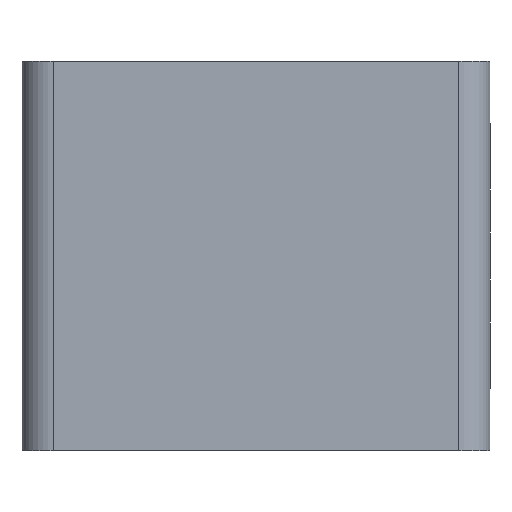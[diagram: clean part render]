
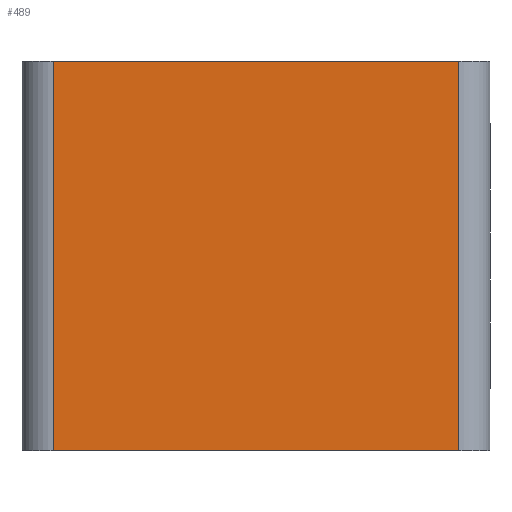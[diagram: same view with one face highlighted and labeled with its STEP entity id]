
A CAD part, left-side view. The second image highlights one B-rep face of the part: STEP entity #489.
In plain terms, the highlighted planar face has unit normal (-1, 0, 0).
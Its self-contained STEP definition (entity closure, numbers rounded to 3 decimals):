
#12 = AXIS2_PLACEMENT_3D ( 'NONE', #997, #910, #274 ) ;
#33 = FACE_OUTER_BOUND ( 'NONE', #331, .T. ) ;
#118 = VECTOR ( 'NONE', #706, 1000. ) ;
#156 = EDGE_CURVE ( 'NONE', #174, #411, #632, .T. ) ;
#159 = CARTESIAN_POINT ( 'NONE',  ( -31.5, 28., 12.5 ) ) ;
#174 = VERTEX_POINT ( 'NONE', #944 ) ;
#274 = DIRECTION ( 'NONE',  ( 0., 0., 1. ) ) ;
#285 = LINE ( 'NONE', #451, #118 ) ;
#295 = VECTOR ( 'NONE', #356, 1000. ) ;
#331 = EDGE_LOOP ( 'NONE', ( #450, #552, #705, #971 ) ) ;
#352 = VERTEX_POINT ( 'NONE', #159 ) ;
#356 = DIRECTION ( 'NONE',  ( 0., 0., 1. ) ) ;
#362 = CARTESIAN_POINT ( 'NONE',  ( -31.5, 28., -12.5 ) ) ;
#408 = EDGE_CURVE ( 'NONE', #174, #611, #841, .T. ) ;
#411 = VERTEX_POINT ( 'NONE', #362 ) ;
#450 = ORIENTED_EDGE ( 'NONE', *, *, #156, .F. ) ;
#451 = CARTESIAN_POINT ( 'NONE',  ( -31.5, 28., 12.5 ) ) ;
#473 = VECTOR ( 'NONE', #909, 1000. ) ;
#489 = ADVANCED_FACE ( 'NONE', ( #33 ), #779, .T. ) ;
#552 = ORIENTED_EDGE ( 'NONE', *, *, #408, .T. ) ;
#611 = VERTEX_POINT ( 'NONE', #733 ) ;
#632 = LINE ( 'NONE', #939, #949 ) ;
#642 = DIRECTION ( 'NONE',  ( 0., 1., 0. ) ) ;
#666 = LINE ( 'NONE', #748, #473 ) ;
#705 = ORIENTED_EDGE ( 'NONE', *, *, #783, .T. ) ;
#706 = DIRECTION ( 'NONE',  ( 0., 0., -1. ) ) ;
#733 = CARTESIAN_POINT ( 'NONE',  ( -31.5, 2., 12.5 ) ) ;
#748 = CARTESIAN_POINT ( 'NONE',  ( -31.5, 0., 12.5 ) ) ;
#768 = CARTESIAN_POINT ( 'NONE',  ( -31.5, 2., 12.5 ) ) ;
#779 = PLANE ( 'NONE',  #12 ) ;
#783 = EDGE_CURVE ( 'NONE', #611, #352, #666, .T. ) ;
#841 = LINE ( 'NONE', #768, #295 ) ;
#888 = EDGE_CURVE ( 'NONE', #352, #411, #285, .T. ) ;
#909 = DIRECTION ( 'NONE',  ( 0., 1., 0. ) ) ;
#910 = DIRECTION ( 'NONE',  ( -1., 0., 0. ) ) ;
#939 = CARTESIAN_POINT ( 'NONE',  ( -31.5, 0., -12.5 ) ) ;
#944 = CARTESIAN_POINT ( 'NONE',  ( -31.5, 2., -12.5 ) ) ;
#949 = VECTOR ( 'NONE', #642, 1000. ) ;
#971 = ORIENTED_EDGE ( 'NONE', *, *, #888, .T. ) ;
#997 = CARTESIAN_POINT ( 'NONE',  ( -31.5, 0., 12.5 ) ) ;
